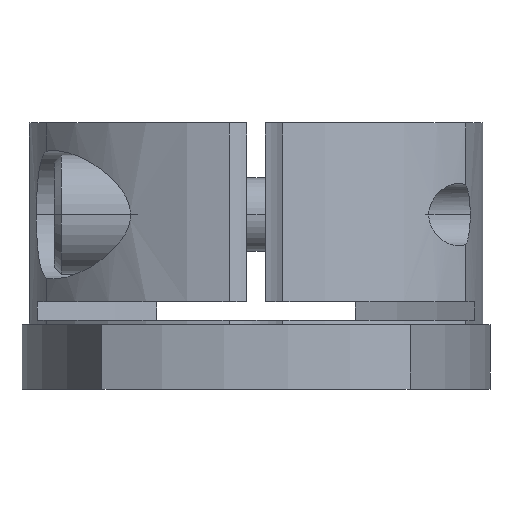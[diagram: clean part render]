
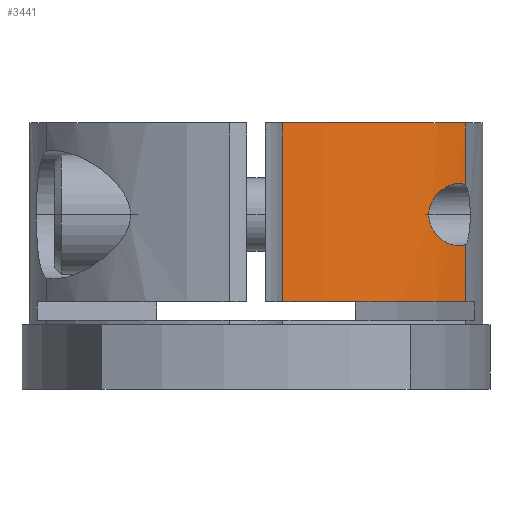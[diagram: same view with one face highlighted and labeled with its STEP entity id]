
A CAD part, front view. The second image highlights one B-rep face of the part: STEP entity #3441.
In plain terms, the highlighted cylindrical face has radius 28.5 mm (diameter 57 mm), a partial arc.
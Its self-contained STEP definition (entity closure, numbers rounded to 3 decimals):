
#797=CARTESIAN_POINT('',(22.845,-17.039,18.761));
#798=VERTEX_POINT('',#797);
#820=CARTESIAN_POINT('',(18.823,-21.4,15.5));
#821=VERTEX_POINT('',#820);
#822=CARTESIAN_POINT('',(18.823,-21.4,15.5));
#823=CARTESIAN_POINT('',(18.823,-21.4,15.653));
#824=CARTESIAN_POINT('',(18.835,-21.389,15.812));
#825=CARTESIAN_POINT('',(18.884,-21.346,16.126));
#826=CARTESIAN_POINT('',(18.922,-21.313,16.282));
#827=CARTESIAN_POINT('',(19.018,-21.227,16.583));
#828=CARTESIAN_POINT('',(19.077,-21.174,16.728));
#829=CARTESIAN_POINT('',(19.208,-21.055,17.));
#830=CARTESIAN_POINT('',(19.281,-20.988,17.127));
#831=CARTESIAN_POINT('',(19.459,-20.824,17.403));
#832=CARTESIAN_POINT('',(19.576,-20.714,17.556));
#833=CARTESIAN_POINT('',(19.829,-20.472,17.842));
#834=CARTESIAN_POINT('',(19.964,-20.34,17.974));
#835=CARTESIAN_POINT('',(20.245,-20.06,18.211));
#836=CARTESIAN_POINT('',(20.39,-19.913,18.316));
#837=CARTESIAN_POINT('',(20.679,-19.613,18.498));
#838=CARTESIAN_POINT('',(20.823,-19.46,18.575));
#839=CARTESIAN_POINT('',(21.222,-19.027,18.756));
#840=CARTESIAN_POINT('',(21.493,-18.721,18.838));
#841=CARTESIAN_POINT('',(22.03,-18.086,18.914));
#842=CARTESIAN_POINT('',(22.296,-17.757,18.907));
#843=CARTESIAN_POINT('',(22.65,-17.299,18.83));
#844=CARTESIAN_POINT('',(22.749,-17.169,18.8));
#845=CARTESIAN_POINT('',(22.845,-17.039,18.761));
#846=B_SPLINE_CURVE_WITH_KNOTS('',3,(#822,#823,#824,#825,#826,#827,#828,#829,#830,#831,#832,#833,#834,#835,#836,#837,#838,#839,#840,#841,#842,#843,#844,#845),.UNSPECIFIED.,.F.,.U.,(4,2,2,2,2,2,2,2,2,2,2,4),(9.232,9.693,10.153,10.614,11.074,11.715,12.356,12.997,13.638,14.845,16.051,16.533),.UNSPECIFIED.);
#847=EDGE_CURVE('',#821,#798,#846,.T.);
#2443=CARTESIAN_POINT('',(22.845,-17.039,12.239));
#2444=VERTEX_POINT('',#2443);
#2445=CARTESIAN_POINT('',(22.845,-17.039,12.239));
#2446=CARTESIAN_POINT('',(22.749,-17.169,12.2));
#2447=CARTESIAN_POINT('',(22.65,-17.299,12.17));
#2448=CARTESIAN_POINT('',(22.296,-17.757,12.093));
#2449=CARTESIAN_POINT('',(22.03,-18.086,12.086));
#2450=CARTESIAN_POINT('',(21.493,-18.721,12.162));
#2451=CARTESIAN_POINT('',(21.222,-19.027,12.244));
#2452=CARTESIAN_POINT('',(20.823,-19.46,12.425));
#2453=CARTESIAN_POINT('',(20.679,-19.613,12.502));
#2454=CARTESIAN_POINT('',(20.39,-19.913,12.684));
#2455=CARTESIAN_POINT('',(20.245,-20.06,12.789));
#2456=CARTESIAN_POINT('',(19.964,-20.34,13.026));
#2457=CARTESIAN_POINT('',(19.829,-20.472,13.158));
#2458=CARTESIAN_POINT('',(19.576,-20.714,13.444));
#2459=CARTESIAN_POINT('',(19.459,-20.824,13.597));
#2460=CARTESIAN_POINT('',(19.281,-20.988,13.873));
#2461=CARTESIAN_POINT('',(19.208,-21.055,14.));
#2462=CARTESIAN_POINT('',(19.077,-21.174,14.272));
#2463=CARTESIAN_POINT('',(19.018,-21.227,14.417));
#2464=CARTESIAN_POINT('',(18.922,-21.313,14.718));
#2465=CARTESIAN_POINT('',(18.884,-21.346,14.874));
#2466=CARTESIAN_POINT('',(18.835,-21.389,15.188));
#2467=CARTESIAN_POINT('',(18.823,-21.4,15.347));
#2468=CARTESIAN_POINT('',(18.823,-21.4,15.5));
#2469=B_SPLINE_CURVE_WITH_KNOTS('',3,(#2445,#2446,#2447,#2448,#2449,#2450,#2451,#2452,#2453,#2454,#2455,#2456,#2457,#2458,#2459,#2460,#2461,#2462,#2463,#2464,#2465,#2466,#2467,#2468),.UNSPECIFIED.,.F.,.U.,(4,2,2,2,2,2,2,2,2,2,2,4),(1.931,2.413,3.62,4.827,5.468,6.109,6.75,7.391,7.851,8.312,8.772,9.232),.UNSPECIFIED.);
#2470=EDGE_CURVE('',#2444,#821,#2469,.T.);
#2563=CARTESIAN_POINT('',(22.845,-17.039,25.5));
#2564=VERTEX_POINT('',#2563);
#2572=CARTESIAN_POINT('',(22.845,-17.039,18.761));
#2573=DIRECTION('',(0.0,0.0,1.0));
#2574=VECTOR('',#2573,6.739);
#2575=LINE('',#2572,#2574);
#2576=EDGE_CURVE('',#798,#2564,#2575,.T.);
#2580=CARTESIAN_POINT('',(22.845,-17.039,6.0));
#2581=VERTEX_POINT('',#2580);
#2582=CARTESIAN_POINT('',(22.845,-17.039,6.0));
#2583=DIRECTION('',(0.0,0.0,1.0));
#2584=VECTOR('',#2583,6.239);
#2585=LINE('',#2582,#2584);
#2586=EDGE_CURVE('',#2581,#2444,#2585,.T.);
#2695=CARTESIAN_POINT('',(2.935,-28.348,6.0));
#2696=VERTEX_POINT('',#2695);
#2704=CARTESIAN_POINT('',(2.935,-28.348,25.5));
#2705=VERTEX_POINT('',#2704);
#2706=CARTESIAN_POINT('',(2.935,-28.348,25.5));
#2707=DIRECTION('',(0.0,0.0,-1.0));
#2708=VECTOR('',#2707,19.5);
#2709=LINE('',#2706,#2708);
#2710=EDGE_CURVE('',#2705,#2696,#2709,.T.);
#2994=CARTESIAN_POINT('',(0.,0.,25.5));
#2995=DIRECTION('',(0.0,0.0,-1.0));
#2996=DIRECTION('',(1.0,0.0,0.0));
#2997=AXIS2_PLACEMENT_3D('',#2994,#2995,#2996);
#2998=CIRCLE('',#2997,28.5);
#2999=EDGE_CURVE('',#2564,#2705,#2998,.T.);
#3421=CARTESIAN_POINT('',(0.,0.,-3.5));
#3422=DIRECTION('',(0.0,0.0,1.0));
#3423=DIRECTION('',(1.0,0.0,0.0));
#3424=AXIS2_PLACEMENT_3D('',#3421,#3422,#3423);
#3425=CYLINDRICAL_SURFACE('',#3424,28.5);
#3426=ORIENTED_EDGE('',*,*,#2470,.T.);
#3427=ORIENTED_EDGE('',*,*,#847,.T.);
#3428=ORIENTED_EDGE('',*,*,#2576,.T.);
#3429=ORIENTED_EDGE('',*,*,#2999,.T.);
#3430=ORIENTED_EDGE('',*,*,#2710,.T.);
#3431=CARTESIAN_POINT('',(0.,0.,6.0));
#3432=DIRECTION('',(0.0,0.0,1.0));
#3433=DIRECTION('',(1.0,0.0,0.0));
#3434=AXIS2_PLACEMENT_3D('',#3431,#3432,#3433);
#3435=CIRCLE('',#3434,28.5);
#3436=EDGE_CURVE('',#2696,#2581,#3435,.T.);
#3437=ORIENTED_EDGE('',*,*,#3436,.T.);
#3438=ORIENTED_EDGE('',*,*,#2586,.T.);
#3439=EDGE_LOOP('',(#3426,#3427,#3428,#3429,#3430,#3437,#3438));
#3440=FACE_OUTER_BOUND('',#3439,.T.);
#3441=ADVANCED_FACE('',(#3440),#3425,.T.);
